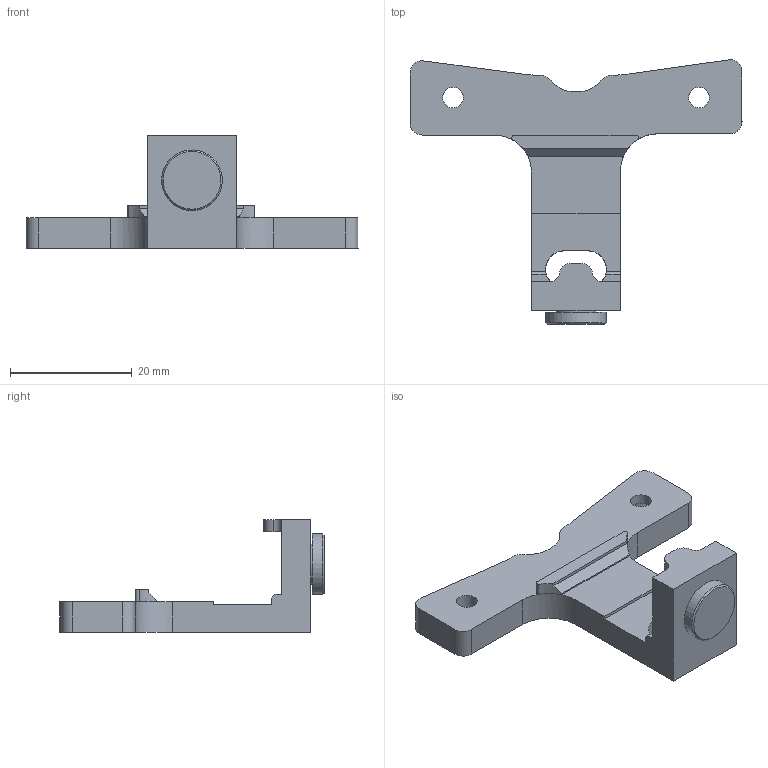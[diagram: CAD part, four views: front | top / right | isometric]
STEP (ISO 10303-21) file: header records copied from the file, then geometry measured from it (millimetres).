
FILE_DESCRIPTION(/* description */ (''),/* implementation_level */ '2;1');
FILE_NAME(/* name */ 'LA-3007-1822-A.stp',/* time_stamp */ '2015-01-29T10:12:46+00:00',/* author */ (''),/* organization */ (''),/* preprocessor_version */ 'ST-DEVELOPER v11',/* originating_system */ 'SIEMENS PLM Software NX 7.5',/* authorisation */ '');
FILE_SCHEMA (('AUTOMOTIVE_DESIGN { 1 0 10303 214 1 1 1 1 }'));
Length unit declared in the file: millimetre
Products named in the file (1): rt13D85Exhm1
Bounding box: 54.65 x 43.54 x 18.5 mm (x, y, z)
Volume: 5677.6 mm3; surface area: 3910.1 mm2
Topology: 1 solids, 1 shells, 80 faces, 228 edges, 152 vertices
Faces by surface type: plane 46, cylinder 31, cone 3
Full cylindrical faces by diameter (mm): 3.4 x2, 6.647 x1, 6.9 x2, 10 x1
Entity records: 3095 total; most frequent: CARTESIAN_POINT 466, DIRECTION 442, ORIENTED_EDGE 424, EDGE_CURVE 212, AXIS2_PLACEMENT_3D 157, VERTEX_POINT 145, LINE 128, VECTOR 128
